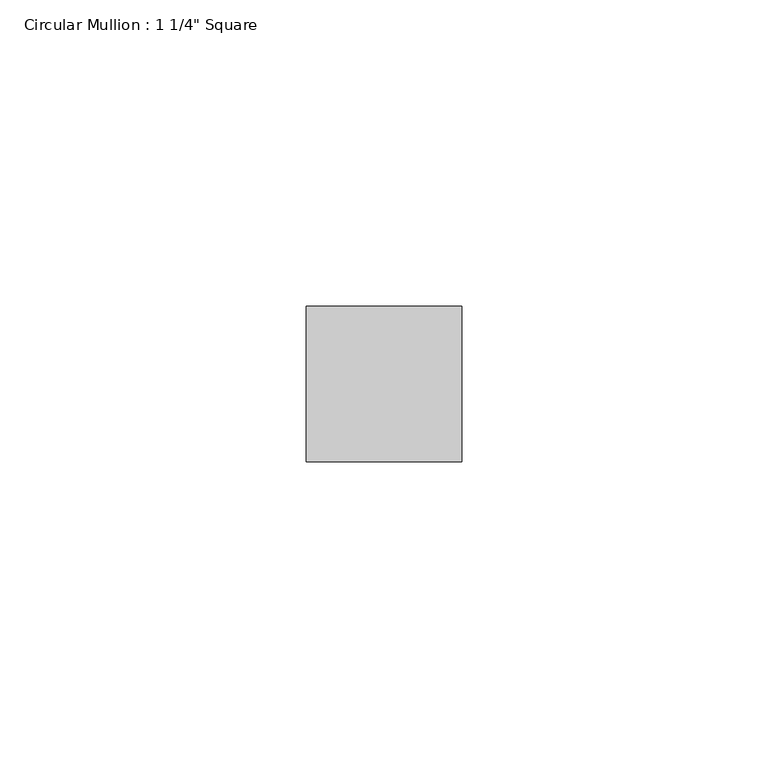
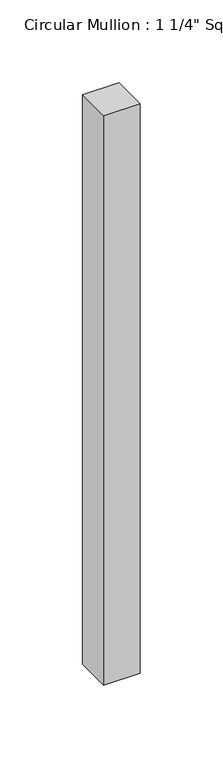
"""IFC4 building model written with IfcOpenShell, lengths in millimetres: member geometry."""

from ifc_helpers import new_model, si_unit, frame, origin, place, context, project, spatial, polyline, outline, extrude, source, transform, mapped, element, save


def member_ff98d70f(model_context):
    return source(origin(), model_context, "Body", "SweptSolid", [
        extrude(outline(polyline([(12.7, 12.7), (12.7, -12.7), (-12.7, -12.7), (-12.7, 12.7), (12.7, 12.7)])), frame((0.0, 0.0, -419.1), z_axis=(0.0, 0.0, 1.0), x_axis=(1.0, 0.0, 0.0)), (0.0, 0.0, 1.0), 419.1),
    ])


if __name__ == "__main__":
    model = new_model("IFC4")
    model_context = context("Model", 3, world=origin())
    ifc_project = project(units=[si_unit("LENGTHUNIT", "METRE", prefix="MILLI")], contexts=[model_context])
    site = spatial("IfcSite", under=ifc_project)
    building = spatial("IfcBuilding", under=site)
    placement = place(None, origin())
    member_shape = member_ff98d70f(model_context)
    element("IfcMember", 1, ObjectType="Circular Mullion : 1 1/4\" Square", at=placement, inside=building, context=model_context, shape_type="MappedRepresentation", body=[
        mapped(member_shape, transform((0.0, 0.0, 0.0), x_axis=(1.0, 0.0, 0.0), y_axis=(0.0, 1.0, 0.0), z_axis=(0.0, 0.0, 1.0))),
    ])
    save(model, "model.ifc")
